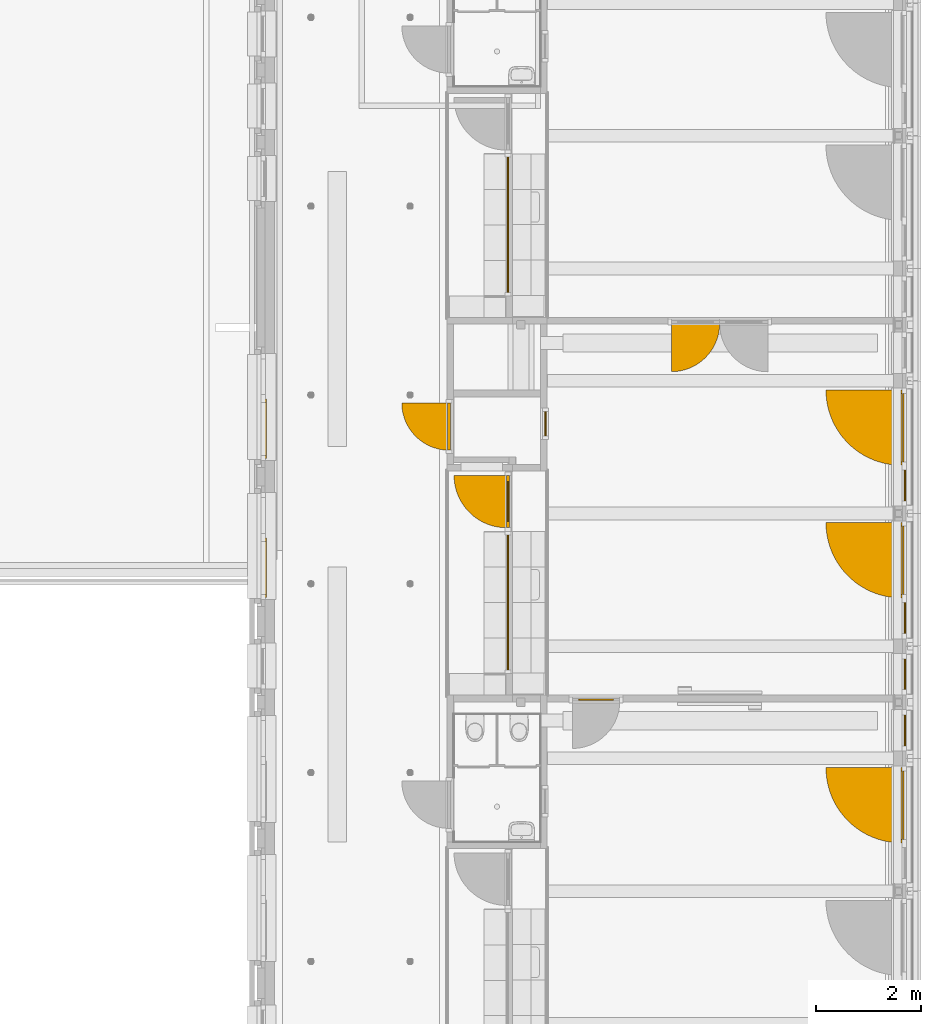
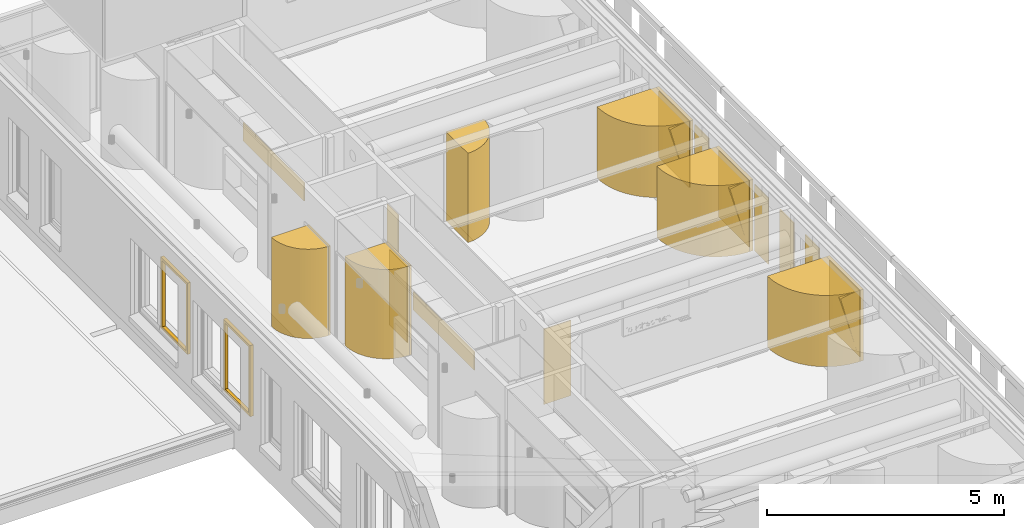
# One storey, part 64 of 128: 23 windows, 2 doors, 7 elements without a shape of their own.
"""IFC2X3 building model written with IfcOpenShell, lengths in millimetres."""

import ifcopenshell
import ifcopenshell.guid

model = None  # the IFC model being written
_history = None  # IfcOwnerHistory: only IFC2X3 demands one
_inside = {}  # id of a spatial element -> (the spatial element, [elements in it])
_under = {}  # id of a project, library or spatial element -> (it, [spatial elements below it])
_declared = {}  # id of a project -> (the project, [libraries it declares])
_typed = {}  # id of a type object -> (the type object, [elements of that type])
_made_of = {}  # id of a material, layer set ... -> (it, [elements and type objects made of it])


def new_model(schema):
    """Start an empty IFC model of exactly this schema.

    Asked for "IFC4X3", IfcOpenShell would pick the latest addendum, in which some entities
    have other attributes; the version numbers below select the first issue.
    IFC2X3 requires an IfcOwnerHistory on every rooted entity: one is made here for all.
    """
    global model, _history
    if schema == "IFC4X3":
        model = ifcopenshell.file(schema_version=(4, 3, 0, 0))
    else:
        model = ifcopenshell.file(schema=schema)
    _inside.clear()
    _under.clear()
    _declared.clear()
    _typed.clear()
    _made_of.clear()
    _history = None
    if model.schema == "IFC2X3":
        org = make("IfcOrganization", Name="unknown")
        user = make(
            "IfcPersonAndOrganization",
            ThePerson=make("IfcPerson", FamilyName="unknown"),
            TheOrganization=org,
        )
        app = make(
            "IfcApplication",
            ApplicationDeveloper=org,
            Version="unknown",
            ApplicationFullName="unknown",
            ApplicationIdentifier="unknown",
        )
        _history = make(
            "IfcOwnerHistory",
            OwningUser=user,
            OwningApplication=app,
            ChangeAction="ADDED",
            CreationDate=0,
        )
    return model


def make(cls, **values):
    """One entity of the class cls with the attributes given. An attribute that is None is left unset."""
    return model.create_entity(
        cls, **{name: value for name, value in values.items() if value is not None}
    )


def entity(cls, *values):
    """Any entity or typed value of the class cls, its attributes in the order of the schema. None: left unset."""
    e = model.create_entity(cls)
    for i, value in enumerate(values):
        if value is not None:
            e[i] = value
    return e


def rooted(cls, **values):
    """An entity with a GlobalId (a new one), such as an element, a storey or a relation."""
    return make(cls, GlobalId=ifcopenshell.guid.new(), OwnerHistory=_history, **values)


def si_unit(unit_type, name, prefix=None):
    """IfcSIUnit, for example si_unit("LENGTHUNIT", "METRE", prefix="MILLI")."""
    return make("IfcSIUnit", UnitType=unit_type, Prefix=prefix, Name=name)


def converted_unit(unit_type, name, factor, base, dimensions=None, offset=None):
    """IfcConversionBasedUnit, such as the inch: factor (a typed value) times the base unit."""
    return make(
        "IfcConversionBasedUnit"
        if offset is None
        else "IfcConversionBasedUnitWithOffset",
        ConversionOffset=offset,
        Dimensions=None
        if dimensions is None
        else entity("IfcDimensionalExponents", *dimensions),
        UnitType=unit_type,
        Name=name,
        ConversionFactor=make(
            "IfcMeasureWithUnit", ValueComponent=factor, UnitComponent=base
        ),
    )


def derived_unit(unit_type, elements):
    """IfcDerivedUnit: a product of units, each with its exponent."""
    return make(
        "IfcDerivedUnit",
        Elements=[
            make("IfcDerivedUnitElement", Unit=unit, Exponent=power)
            for unit, power in elements
        ],
        UnitType=unit_type,
    )


def assignment(units):
    """IfcUnitAssignment: the units of a project."""
    return None if units is None else make("IfcUnitAssignment", Units=units)


def point(xyz):
    """IfcCartesianPoint."""
    return None if xyz is None else make("IfcCartesianPoint", Coordinates=xyz)


def direction(xyz):
    """IfcDirection."""
    return None if xyz is None else make("IfcDirection", DirectionRatios=xyz)


def frame(location, z_axis=None, x_axis=None):
    """IfcAxis2Placement3D, a coordinate frame: its origin and axes. An axis left out is left unset."""
    return make(
        "IfcAxis2Placement3D",
        Location=point(location),
        Axis=direction(z_axis),
        RefDirection=direction(x_axis),
    )


def frame_2d(location, x_axis=None):
    """IfcAxis2Placement2D, a coordinate frame in the plane: its origin and x axis."""
    return make(
        "IfcAxis2Placement2D", Location=point(location), RefDirection=direction(x_axis)
    )


def origin():
    """The frame at (0, 0, 0) with its axes left unset."""
    return frame((0.0, 0.0, 0.0))


def origin_2d_with_axis():
    """The frame at (0, 0) in the plane with the x axis (1, 0) written out."""
    return frame_2d((0.0, 0.0), x_axis=(1.0, 0.0))


def place(relative_to, where):
    """IfcLocalPlacement: puts the frame where relative to a parent placement (None: the world)."""
    return make(
        "IfcLocalPlacement", PlacementRelTo=relative_to, RelativePlacement=where
    )


def context(
    kind, dimensions, precision=None, world=None, true_north=None, identifier=None
):
    """IfcGeometricRepresentationContext, for example the 3D "Model" context."""
    return make(
        "IfcGeometricRepresentationContext",
        ContextIdentifier=identifier,
        ContextType=kind,
        CoordinateSpaceDimension=dimensions,
        Precision=precision,
        WorldCoordinateSystem=world,
        TrueNorth=true_north,
    )


def subcontext(parent, identifier, kind, view, scale=None):
    """IfcGeometricRepresentationSubContext, for example "Body" below "Model"."""
    return make(
        "IfcGeometricRepresentationSubContext",
        ContextIdentifier=identifier,
        ContextType=kind,
        ParentContext=parent,
        TargetScale=scale,
        TargetView=view,
    )


def project(units=None, contexts=None):
    """IfcProject with its units and contexts."""
    return rooted(
        "IfcProject",
        Name="project",
        RepresentationContexts=contexts,
        UnitsInContext=assignment(units),
    )


def spatial(cls, under=None, at=None, **own):
    """A site, building, storey or space (cls), placed at a placement, below another one or the project."""
    s = rooted(cls, ObjectPlacement=at, **own)
    if under is not None:
        _under.setdefault(under.id(), (under, []))[1].append(s)
    return s


def polyline(points):
    """IfcPolyline through the points."""
    return make("IfcPolyline", Points=[point(p) for p in points])


def circle_curve(where, radius):
    """IfcCircle in the frame where."""
    return make("IfcCircle", Position=where, Radius=radius)


def parameter(value):
    """IfcParameterValue: where a trimmed curve begins or ends, as a parameter of its basis curve."""
    return model.create_entity("IfcParameterValue", value)


def trimmed(basis, trim1, trim2, sense, master):
    """IfcTrimmedCurve: the piece of a basis curve between two trims."""
    return make(
        "IfcTrimmedCurve",
        BasisCurve=basis,
        Trim1=trim1,
        Trim2=trim2,
        SenseAgreement=sense,
        MasterRepresentation=master,
    )


def segment(curve, same_sense, transition):
    """IfcCompositeCurveSegment."""
    return make(
        "IfcCompositeCurveSegment",
        Transition=transition,
        SameSense=same_sense,
        ParentCurve=curve,
    )


def composite_curve(segments, self_intersect=None):
    """IfcCompositeCurve: segments joined end to end."""
    return make("IfcCompositeCurve", Segments=segments, SelfIntersect=self_intersect)


def profile(cls, at=None, kind="AREA", **sizes):
    """A parametric profile (cls). Its sizes go by their IFC names, for example OverallWidth=200.0."""
    return make(cls, ProfileType=kind, Position=at, **sizes)


def rectangle(**sizes):
    """IfcRectangleProfileDef."""
    return profile("IfcRectangleProfileDef", **sizes)


def circle(**sizes):
    """IfcCircleProfileDef."""
    return profile("IfcCircleProfileDef", **sizes)


def outline(outer, holes=None, kind="AREA"):
    """IfcArbitraryClosedProfileDef: a profile drawn as a closed curve; with holes, ...WithVoids."""
    if holes is None:
        return make("IfcArbitraryClosedProfileDef", ProfileType=kind, OuterCurve=outer)
    return make(
        "IfcArbitraryProfileDefWithVoids",
        ProfileType=kind,
        OuterCurve=outer,
        InnerCurves=holes,
    )


def extrude(swept, where, along, depth):
    """IfcExtrudedAreaSolid: the profile swept, set in the frame where, extruded along a direction by depth."""
    return make(
        "IfcExtrudedAreaSolid",
        SweptArea=swept,
        Position=where,
        ExtrudedDirection=direction(along),
        Depth=depth,
    )


def shape(context_of_items, identifier, shape_type, items):
    """IfcShapeRepresentation: the items that make up one representation, for example the "Body"."""
    return make(
        "IfcShapeRepresentation",
        ContextOfItems=context_of_items,
        RepresentationIdentifier=identifier,
        RepresentationType=shape_type,
        Items=items,
    )


def source(mapping_origin, context_of_items, identifier, shape_type, items):
    """IfcRepresentationMap: a shape defined once, which mapped items show again and again."""
    return make(
        "IfcRepresentationMap",
        MappingOrigin=mapping_origin,
        MappedRepresentation=shape(context_of_items, identifier, shape_type, items),
    )


def transform(
    local_origin,
    x_axis=None,
    y_axis=None,
    z_axis=None,
    scale=None,
    scale2=None,
    scale3=None,
    uniform=True,
):
    """IfcCartesianTransformationOperator3D, or its non-uniform kind. x_axis, y_axis, z_axis: its Axis1, 2, 3."""
    if uniform:
        return make(
            "IfcCartesianTransformationOperator3D",
            Axis1=direction(x_axis),
            Axis2=direction(y_axis),
            LocalOrigin=point(local_origin),
            Scale=scale,
            Axis3=direction(z_axis),
        )
    return make(
        "IfcCartesianTransformationOperator3DnonUniform",
        Axis1=direction(x_axis),
        Axis2=direction(y_axis),
        LocalOrigin=point(local_origin),
        Scale=scale,
        Axis3=direction(z_axis),
        Scale2=scale2,
        Scale3=scale3,
    )


def mapped(mapping_source, mapping_target):
    """IfcMappedItem: shows the shape of a source again, moved by a transform."""
    return make(
        "IfcMappedItem", MappingSource=mapping_source, MappingTarget=mapping_target
    )


def material(Name=None, Category=None):
    """IfcMaterial."""
    return make("IfcMaterial", Name=Name, Category=Category)


def material_list(materials):
    """IfcMaterialList."""
    return make("IfcMaterialList", Materials=materials)


def made_of(thing, what):
    """Note that an element or type object is made of a material, layer set ...; save() writes the relation."""
    if what is not None:
        _made_of.setdefault(what.id(), (what, []))[1].append(thing)
    return thing


def type_object(cls, material=None, **own):
    """A type object (cls), such as IfcWallType, which elements share."""
    return made_of(rooted(cls, **own), material)


def type_shapes(of_type, sources):
    """Give a type object the sources (RepresentationMaps) that its elements show as mapped items."""
    of_type.RepresentationMaps = sources


def element(
    cls,
    number,
    at=None,
    inside=None,
    cuts=None,
    type_object=None,
    material=None,
    context=None,
    identifier="Body",
    shape_type=None,
    held_by="IfcProductDefinitionShape",
    body=None,
    shapes=None,
    **own,
):
    """One element of the class cls, such as IfcWall. Its Tag is "e" and its number.

    at: its placement. inside: the storey or other place that contains it. cuts: it is an
    opening in that element (IfcRelVoidsElement). A single representation is given by context,
    identifier, shape_type and body (its items); several are given by shapes. held_by: the class
    of the entity that holds the representations. save() writes the other relations.
    """
    e = rooted(cls, Tag="e%d" % number, ObjectPlacement=at, **own)
    if body is not None:
        shapes = [shape(context, identifier, shape_type, body)]
    if shapes is not None:
        e.Representation = make(held_by, Representations=shapes)
    if inside is not None:
        _inside.setdefault(inside.id(), (inside, []))[1].append(e)
    if cuts is not None:
        rooted(
            "IfcRelVoidsElement", RelatingBuildingElement=cuts, RelatedOpeningElement=e
        )
    if type_object is not None:
        _typed.setdefault(type_object.id(), (type_object, []))[1].append(e)
    return made_of(e, material)


def aggregate(whole, parts):
    """IfcRelAggregates: a whole, such as a stair, and the parts it consists of."""
    return rooted("IfcRelAggregates", RelatingObject=whole, RelatedObjects=parts)


def save(model, path):
    """Write the relations noted so far, then the file.

    IfcRelAggregates (storeys below a building ...), IfcRelContainedInSpatialStructure (elements
    in a storey), IfcRelDefinesByType, IfcRelAssociatesMaterial and IfcRelDeclares: one each for
    every whole, place, type object, material and project.
    """
    for whole, parts in _under.values():
        aggregate(whole, parts)
    for where, things in _inside.values():
        rooted(
            "IfcRelContainedInSpatialStructure",
            RelatedElements=things,
            RelatingStructure=where,
        )
    for kind, things in _typed.values():
        rooted("IfcRelDefinesByType", RelatedObjects=things, RelatingType=kind)
    for what, things in _made_of.values():
        rooted("IfcRelAssociatesMaterial", RelatedObjects=things, RelatingMaterial=what)
    for by, libraries in _declared.values():
        rooted("IfcRelDeclares", RelatingContext=by, RelatedDefinitions=libraries)
    model.write(path)


model = new_model("IFC2X3")

# Units and contexts
model_context = context("Model", 3, precision=0.01, world=origin(), true_north=direction((6.123031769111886e-17, 1.0)))
body_context = subcontext(model_context, "Body", "Model", "MODEL_VIEW")
ifc_project = project(units=[si_unit("LENGTHUNIT", "METRE", prefix="MILLI"), si_unit("AREAUNIT", "SQUARE_METRE"), si_unit("VOLUMEUNIT", "CUBIC_METRE"), converted_unit("PLANEANGLEUNIT", "DEGREE", entity("IfcRatioMeasure", 0.017453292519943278), si_unit("PLANEANGLEUNIT", "RADIAN"), dimensions=[0, 0, 0, 0, 0, 0, 0]), si_unit("MASSUNIT", "GRAM", prefix="KILO"), derived_unit("MASSDENSITYUNIT", [(si_unit("MASSUNIT", "GRAM", prefix="KILO"), 1), (si_unit("LENGTHUNIT", "METRE"), -3)]), derived_unit("IONCONCENTRATIONUNIT", [(si_unit("MASSUNIT", "GRAM", prefix="KILO"), 1), (si_unit("LENGTHUNIT", "METRE"), -3)]), derived_unit("MOMENTOFINERTIAUNIT", [(si_unit("LENGTHUNIT", "METRE"), 4)]), si_unit("TIMEUNIT", "SECOND"), si_unit("FREQUENCYUNIT", "HERTZ"), si_unit("THERMODYNAMICTEMPERATUREUNIT", "DEGREE_CELSIUS"), derived_unit("THERMALTRANSMITTANCEUNIT", [(si_unit("MASSUNIT", "GRAM", prefix="KILO"), 1), (si_unit("THERMODYNAMICTEMPERATUREUNIT", "KELVIN"), -1), (si_unit("TIMEUNIT", "SECOND"), -3)]), derived_unit("THERMALCONDUCTANCEUNIT", [(si_unit("MASSUNIT", "GRAM", prefix="KILO"), 1), (si_unit("THERMODYNAMICTEMPERATUREUNIT", "KELVIN"), -1), (si_unit("TIMEUNIT", "SECOND"), -3), (si_unit("LENGTHUNIT", "METRE"), 1)]), derived_unit("VOLUMETRICFLOWRATEUNIT", [(si_unit("LENGTHUNIT", "METRE"), 3), (si_unit("TIMEUNIT", "SECOND"), -1)]), derived_unit("MASSFLOWRATEUNIT", [(si_unit("MASSUNIT", "GRAM", prefix="KILO"), 1), (si_unit("TIMEUNIT", "SECOND"), -1)]), derived_unit("ROTATIONALFREQUENCYUNIT", [(si_unit("TIMEUNIT", "SECOND"), -1)]), si_unit("ELECTRICCURRENTUNIT", "AMPERE"), si_unit("ELECTRICVOLTAGEUNIT", "VOLT"), si_unit("POWERUNIT", "WATT"), si_unit("FORCEUNIT", "NEWTON", prefix="KILO"), si_unit("ILLUMINANCEUNIT", "LUX"), si_unit("LUMINOUSFLUXUNIT", "LUMEN"), si_unit("LUMINOUSINTENSITYUNIT", "CANDELA"), derived_unit("USERDEFINED", [(si_unit("MASSUNIT", "GRAM", prefix="KILO"), -1), (si_unit("LENGTHUNIT", "METRE"), -2), (si_unit("TIMEUNIT", "SECOND"), 3), (si_unit("LUMINOUSFLUXUNIT", "LUMEN"), 1)]), derived_unit("USERDEFINED", [(si_unit("MASSUNIT", "GRAM", prefix="KILO"), 1), (si_unit("TIMEUNIT", "SECOND"), -3), (si_unit("LENGTHUNIT", "METRE"), 3), (si_unit("ELECTRICCURRENTUNIT", "AMPERE"), -2)]), derived_unit("SOUNDPOWERUNIT", [(si_unit("MASSUNIT", "GRAM", prefix="KILO"), 1), (si_unit("TIMEUNIT", "SECOND"), -3), (si_unit("LENGTHUNIT", "METRE"), 2)]), derived_unit("SOUNDPRESSUREUNIT", [(si_unit("MASSUNIT", "GRAM", prefix="KILO"), 1), (si_unit("LENGTHUNIT", "METRE"), -1), (si_unit("TIMEUNIT", "SECOND"), -2)]), derived_unit("LINEARVELOCITYUNIT", [(si_unit("LENGTHUNIT", "METRE"), 1), (si_unit("TIMEUNIT", "SECOND"), -1)]), si_unit("PRESSUREUNIT", "PASCAL"), derived_unit("USERDEFINED", [(si_unit("MASSUNIT", "GRAM", prefix="KILO"), 1), (si_unit("LENGTHUNIT", "METRE"), -2), (si_unit("TIMEUNIT", "SECOND"), -2)]), derived_unit("LINEARFORCEUNIT", [(si_unit("MASSUNIT", "GRAM", prefix="KILO"), 1), (si_unit("TIMEUNIT", "SECOND"), -2)]), derived_unit("PLANARFORCEUNIT", [(si_unit("MASSUNIT", "GRAM", prefix="KILO"), 1), (si_unit("LENGTHUNIT", "METRE"), -1), (si_unit("TIMEUNIT", "SECOND"), -2)]), derived_unit("SPECIFICHEATCAPACITYUNIT", [(si_unit("THERMODYNAMICTEMPERATUREUNIT", "KELVIN"), -1), (si_unit("LENGTHUNIT", "METRE"), 2), (si_unit("TIMEUNIT", "SECOND"), -2)]), derived_unit("HEATINGVALUEUNIT", [(si_unit("LENGTHUNIT", "METRE"), 2), (si_unit("TIMEUNIT", "SECOND"), -2)]), derived_unit("VAPORPERMEABILITYUNIT", [(si_unit("LENGTHUNIT", "METRE"), -1), (si_unit("TIMEUNIT", "SECOND"), 1)]), derived_unit("DYNAMICVISCOSITYUNIT", [(si_unit("MASSUNIT", "GRAM", prefix="KILO"), 1), (si_unit("TIMEUNIT", "SECOND"), -1), (si_unit("LENGTHUNIT", "METRE"), -1)]), derived_unit("THERMALEXPANSIONCOEFFICIENTUNIT", [(si_unit("THERMODYNAMICTEMPERATUREUNIT", "KELVIN"), -1)]), derived_unit("MODULUSOFELASTICITYUNIT", [(si_unit("MASSUNIT", "GRAM", prefix="KILO"), 1), (si_unit("LENGTHUNIT", "METRE"), -1), (si_unit("TIMEUNIT", "SECOND"), -2)]), derived_unit("ISOTHERMALMOISTURECAPACITYUNIT", [(si_unit("LENGTHUNIT", "METRE"), 3), (si_unit("MASSUNIT", "GRAM", prefix="KILO"), -1)]), derived_unit("MOISTUREDIFFUSIVITYUNIT", [(si_unit("TIMEUNIT", "SECOND"), -1), (si_unit("LENGTHUNIT", "METRE"), 2)])], contexts=[model_context])

# Site, building, storey
site_placement = place(None, frame((0.0, 300.0, 0.0)))
site = spatial("IfcSite", under=ifc_project, at=site_placement, Name="<Kadastrale nummers>", CompositionType="ELEMENT")
building_placement = place(site_placement, origin())
building = spatial("IfcBuilding", under=site, at=building_placement, CompositionType="ELEMENT")
storey_placement = place(building_placement, frame((0.0, 0.0, 3560.0000331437)))
storey = spatial("IfcBuildingStorey", under=building, at=storey_placement, Name="01 eerste verdieping", CompositionType="ELEMENT", Elevation=3560.0000331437)

# Curtain wall, door
curtain_wall_type_1 = type_object("IfcCurtainWallType", Name="Curtain Wall:Merk H01", PredefinedType="NOTDEFINED")
curtain_wall_1_placement = place(storey_placement, frame((0.0, 0.0, -3560.0000331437)))
curtain_wall_1 = element("IfcCurtainWall", 1, at=curtain_wall_1_placement, inside=storey, type_object=curtain_wall_type_1, Name="Curtain Wall:Merk H01", ObjectType="Curtain Wall:Merk H01")
ifc_material_1 = material(Name="ISR_Kunststof_wit")
ifc_material_2 = material(Name="ISR_Mass_Glazing")
ifc_material_list = material_list([ifc_material_1, ifc_material_2])
door_style_1 = type_object("IfcDoorStyle", Name="31_DO_Rondgat_deur:dichte_deur", ConstructionType="NOTDEFINED", OperationType="NOTDEFINED", ParameterTakesPrecedence=False, Sizeable=False, material=ifc_material_list)
shared_shape_1 = source(origin(), body_context, "Body", "SweptSolid", [
    extrude(outline(polyline([(-450.0, -1151.5000000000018), (450.0, -1151.5000000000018), (450.0, 1151.4999999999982), (-450.0, 1151.5000000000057), (-450.0, -1151.5000000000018)]), holes=[composite_curve([segment(trimmed(circle_curve(frame_2d((0.0, -448.5000000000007), x_axis=(1.0, 0.0)), 200.0), [parameter(179.99999999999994)], [parameter(359.9999999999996)], True, "PARAMETER"), False, "CONTINUOUS"), segment(trimmed(circle_curve(frame_2d((0.0, -448.5000000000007), x_axis=(1.0, 0.0)), 200.0), [parameter(4.0711099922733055e-13)], [parameter(179.99999999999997)], True, "PARAMETER"), False, "CONTINUOUS")], self_intersect=False)]), frame((0.0, 30.0, 1151.5000000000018), z_axis=(0.0, 1.0, 0.0), x_axis=(1.0, 0.0, 0.0)), (0.0, 0.0, 1.0), 26.999999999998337),
    extrude(outline(polyline([(-450.0, -1151.500000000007), (450.0, -1151.500000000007), (450.0, 1151.499999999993), (-450.0, 1151.5000000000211), (-450.0, -1151.500000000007)]), holes=[composite_curve([segment(trimmed(circle_curve(frame_2d((0.0, -448.49999999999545), x_axis=(1.0, 0.0)), 200.0), [parameter(179.99999999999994)], [parameter(359.9999999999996)], True, "PARAMETER"), False, "CONTINUOUS"), segment(trimmed(circle_curve(frame_2d((0.0, -448.49999999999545), x_axis=(1.0, 0.0)), 200.0), [parameter(4.0711099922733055e-13)], [parameter(179.99999999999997)], True, "PARAMETER"), False, "CONTINUOUS")], self_intersect=False)]), frame((0.0, 57.0, 1151.500000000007), z_axis=(0.0, 1.0, 0.0), x_axis=(1.0, 0.0, 0.0)), (0.0, 0.0, 1.0), 26.999999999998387),
    extrude(circle(Radius=200.0, at=frame_2d((0.0, -2.707167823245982e-13), x_axis=(1.0, 0.0))), frame((0.0, 41.319307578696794, 1600.0), z_axis=(0.0, 1.0, 0.0), x_axis=(-1.0, 0.0, 0.0)), (0.0, 0.0, 1.0), 25.1297239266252),
])
type_shapes(door_style_1, [shared_shape_1])
door_1_placement = place(curtain_wall_1_placement, frame((40084.0, 21756.997246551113, 3670.00003501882), z_axis=(0.0, 0.0, 1.0), x_axis=(0.0, 1.0, 0.0)))
door_1 = element("IfcDoor", 2, at=door_1_placement, type_object=door_style_1, material=ifc_material_list, Name="31_DO_Rondgat_deur:dichte_deur", ObjectType="31_DO_Rondgat_deur:dichte_deur", OverallHeight=2303.000000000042, OverallWidth=900.0000000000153, context=body_context, shape_type="MappedRepresentation", body=[
    mapped(shared_shape_1, transform((0.0, 0.0, 0.0), scale=1.0)),
])
aggregate(curtain_wall_1, [door_1])

# Windows
ifc_material_3 = material(Name="Clearance Zones")
window_style_1 = type_object("IfcWindowStyle", Name="BU deur links:BU deur links", ConstructionType="NOTDEFINED", OperationType="NOTDEFINED", ParameterTakesPrecedence=False, Sizeable=False, material=ifc_material_3)
shared_shape_2 = source(origin(), body_context, "Body", "SweptSolid", [
    extrude(outline(composite_curve([segment(polyline([(-600.0, -300.0), (300.0, -300.0)]), True, "CONTINUOUS"), segment(polyline([(300.0, -300.0), (300.0, 600.0)]), True, "CONTINUOUS"), segment(trimmed(circle_curve(frame_2d((300.0, -300.0), x_axis=(1.0, 0.0)), 900.0000000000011), [parameter(90.00000000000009)], [parameter(179.99999999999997)], True, "PARAMETER"), True, "CONTINUOUS")], self_intersect=False)), frame((-150.0, -327.0, -20.0), z_axis=(0.0, 0.0, 1.0), x_axis=(-1.0, 0.0, 0.0)), (0.0, 0.0, 1.0), 2303.0000000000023),
])
type_shapes(window_style_1, [shared_shape_2])
window_1_placement = place(storey_placement, frame((40056.750000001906, 21756.99724655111, 130.00000187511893), z_axis=(0.0, 0.0, 1.0), x_axis=(0.0, -1.0, 0.0)))
element("IfcWindow", 3, at=window_1_placement, inside=storey, type_object=window_style_1, material=ifc_material_3, Name="BU deur links:BU deur links", ObjectType="BU deur links:BU deur links", OverallHeight=1183.999999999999, OverallWidth=900.0000000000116, context=body_context, shape_type="MappedRepresentation", body=[
    mapped(shared_shape_2, transform((0.0, 0.0, 0.0), scale=1.0)),
])
ifc_material_4 = material(Name="glas_enscape")
window_style_2 = type_object("IfcWindowStyle", Name="WI_subvak1:glas 4", ConstructionType="NOTDEFINED", OperationType="NOTDEFINED", ParameterTakesPrecedence=False, Sizeable=False, material=ifc_material_4)
shared_shape_3 = source(origin(), body_context, "Body", "SweptSolid", [
    extrude(rectangle(XDim=24.00000000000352, YDim=2576.000000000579, at=origin_2d_with_axis()), frame((0.0, 0.0, 0.0), z_axis=(0.0, 0.0, 1.0), x_axis=(0.0, -1.0, 0.0)), (0.0, 0.0, 1.0), 465.9999999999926),
])
type_shapes(window_style_2, [shared_shape_3])
for number, where, z_axis, x_axis, name in (
    (4, (41152.0, 25605.998623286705, 1357.0), (0.0, 0.0, 1.0), (0.0, 1.0, 0.0), "WI_subvak1:glas 4"),
    (5, (41152.0, 18405.997246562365, 1357.0), (0.0, 0.0, 1.0), (0.0, 1.0, 0.0), "WI_subvak1:glas 4"),
):
    element("IfcWindow", number, at=place(storey_placement, frame(where, z_axis=z_axis, x_axis=x_axis)), inside=storey, type_object=window_style_2, material=ifc_material_4, Name=name, ObjectType="WI_subvak1:glas 4", OverallHeight=609.928649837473, OverallWidth=2576.0000000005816, context=body_context, shape_type="MappedRepresentation", body=[
        mapped(shared_shape_3, transform((0.0, 0.0, 0.0), scale=1.0)),
    ])

# Curtain wall, door
curtain_wall_type_2 = type_object("IfcCurtainWallType", Name="Curtain Wall:Merk H09", PredefinedType="NOTDEFINED")
curtain_wall_2_placement = place(storey_placement, frame((0.0, 0.0, -3560.0000331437)))
curtain_wall_2 = element("IfcCurtainWall", 6, at=curtain_wall_2_placement, inside=storey, type_object=curtain_wall_type_2, Name="Curtain Wall:Merk H09", ObjectType="Curtain Wall:Merk H09")
ifc_material_5 = material(Name="ISR_HPL Kleur hout")
door_style_2 = type_object("IfcDoorStyle", Name="31_DO_deur_met_stapeldorpel:deur_met_stapeldorpel", ConstructionType="NOTDEFINED", OperationType="NOTDEFINED", ParameterTakesPrecedence=False, Sizeable=False, material=ifc_material_5)
shared_shape_4 = source(origin(), body_context, "Body", "SweptSolid", [
    extrude(outline(polyline([(-500.0, -1151.4999999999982), (500.0, -1151.4999999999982), (500.0, 1151.4999999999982), (-500.0, 1151.4999999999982), (-500.0, -1151.4999999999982)]), holes=[polyline([(-380.0, 911.499999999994), (380.0, 911.4999999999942), (380.0, -1031.4999999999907), (-380.0, -1031.499999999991), (-380.0, 911.499999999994)])]), frame((0.0, 57.0, 1151.5000000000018), z_axis=(0.0, 1.0, 0.0), x_axis=(1.0, 0.0, 0.0)), (0.0, 0.0, 1.0), 26.999999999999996),
    extrude(outline(polyline([(-500.0, -1151.4999999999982), (500.0, -1151.4999999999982), (500.0, 1151.4999999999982), (-500.0, 1151.4999999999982), (-500.0, -1151.4999999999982)]), holes=[polyline([(-380.0, 911.4999999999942), (380.0, 911.4999999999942), (380.0, -1031.4999999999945), (-380.0, -1031.4999999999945), (-380.0, 911.4999999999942)])]), frame((0.0, 30.0, 1151.5000000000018), z_axis=(0.0, 1.0, 0.0), x_axis=(1.0, 0.0, 0.0)), (0.0, 0.0, 1.0), 26.99999999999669),
])
type_shapes(door_style_2, [shared_shape_4])
door_2_placement = place(curtain_wall_2_placement, frame((41209.0, 20327.997246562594, 3670.00003501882), z_axis=(0.0, 0.0, 1.0), x_axis=(0.0, 1.0, 0.0)))
door_2 = element("IfcDoor", 7, at=door_2_placement, type_object=door_style_2, material=ifc_material_5, Name="31_DO_deur_met_stapeldorpel:deur_met_stapeldorpel", ObjectType="31_DO_deur_met_stapeldorpel:deur_met_stapeldorpel", OverallHeight=2303.0000000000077, OverallWidth=1000.0000000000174, context=body_context, shape_type="MappedRepresentation", body=[
    mapped(shared_shape_4, transform((0.0, 0.0, 0.0), scale=1.0)),
])
aggregate(curtain_wall_2, [door_2])

# Windows
window_style_3 = type_object("IfcWindowStyle", Name="WI_subvak1:glas 4", ConstructionType="NOTDEFINED", OperationType="NOTDEFINED", ParameterTakesPrecedence=False, Sizeable=False, material=ifc_material_4)
shared_shape_5 = source(origin(), body_context, "Body", "SweptSolid", [
    extrude(rectangle(XDim=466.0000000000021, YDim=24.000000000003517, at=origin_2d_with_axis()), origin(), (0.0, 0.0, 1.0), 1055.9999999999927),
])
type_shapes(window_style_3, [shared_shape_5])
window_2_placement = place(storey_placement, frame((41868.0, 21809.99724655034, 1357.0), z_axis=(0.0, 0.0, 1.0), x_axis=(0.0, 1.0, 0.0)))
element("IfcWindow", 8, at=window_2_placement, inside=storey, type_object=window_style_3, material=ifc_material_4, Name="WI_subvak1:glas 4", ObjectType="WI_subvak1:glas 4", OverallHeight=609.9286498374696, OverallWidth=466.00000000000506, context=body_context, shape_type="MappedRepresentation", body=[
    mapped(shared_shape_5, transform((0.0, 0.0, 0.0), scale=1.0)),
])
window_style_4 = type_object("IfcWindowStyle", Name="WI_subvak1:glas 2", ConstructionType="NOTDEFINED", OperationType="NOTDEFINED", ParameterTakesPrecedence=False, Sizeable=False, material=ifc_material_4)
shared_shape_6 = source(origin(), body_context, "Body", "SweptSolid", [
    extrude(rectangle(XDim=24.000000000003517, YDim=759.9999999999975, at=frame_2d((0.0, -2.842170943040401e-14), x_axis=(1.0, 0.0))), frame((0.0, 0.0, 0.0), z_axis=(0.0, 0.0, 1.0), x_axis=(0.0, -1.0, 0.0)), (0.0, 0.0, 1.0), 1942.999999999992),
])
type_shapes(window_style_4, [shared_shape_6])
window_3_placement = place(storey_placement, frame((41152.0, 20327.997246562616, 350.00000187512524), z_axis=(0.0, 0.0, 1.0), x_axis=(0.0, 1.0, 0.0)))
element("IfcWindow", 9, at=window_3_placement, inside=storey, type_object=window_style_4, material=ifc_material_4, Name="WI_subvak1:glas 2", ObjectType="WI_subvak1:glas 2", OverallHeight=609.9286498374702, OverallWidth=760.0000000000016, context=body_context, shape_type="MappedRepresentation", body=[
    mapped(shared_shape_6, transform((0.0, 0.0, 0.0), scale=1.0)),
])
window_style_5 = type_object("IfcWindowStyle", Name="BU deur links:BU deur links", ConstructionType="NOTDEFINED", OperationType="NOTDEFINED", ParameterTakesPrecedence=False, Sizeable=False, material=ifc_material_3)
shared_shape_7 = source(origin(), body_context, "Body", "SweptSolid", [
    extrude(outline(composite_curve([segment(polyline([(-666.6666666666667, -333.33333333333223), (333.3333333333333, -333.33333333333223)]), True, "CONTINUOUS"), segment(polyline([(333.3333333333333, -333.33333333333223), (333.33333333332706, 666.6666666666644)]), True, "CONTINUOUS"), segment(trimmed(circle_curve(frame_2d((333.3333333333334, -333.33333333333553), x_axis=(1.0, 0.0)), 1000.0000000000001), [parameter(90.00000000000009)], [parameter(179.99999999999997)], True, "PARAMETER"), True, "CONTINUOUS")], self_intersect=False)), frame((-166.66666666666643, -360.3333333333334, -20.0), z_axis=(0.0, 0.0, 1.0), x_axis=(-1.0, 0.0, 0.0)), (0.0, 0.0, 1.0), 2303.0000000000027),
])
type_shapes(window_style_5, [shared_shape_7])
window_4_placement = place(storey_placement, frame((41152.0, 20327.997246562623, 130.00000187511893), z_axis=(0.0, 0.0, 1.0), x_axis=(0.0, -1.0, 0.0)))
element("IfcWindow", 10, at=window_4_placement, inside=storey, type_object=window_style_5, material=ifc_material_3, Name="BU deur links:BU deur links", ObjectType="BU deur links:BU deur links", OverallHeight=1284.0000000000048, OverallWidth=1000.0000000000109, context=body_context, shape_type="MappedRepresentation", body=[
    mapped(shared_shape_7, transform((0.0, 0.0, 0.0), scale=1.0)),
])
window_style_6 = type_object("IfcWindowStyle", Name="BU deur rechts:BU deur rechts", ConstructionType="NOTDEFINED", OperationType="NOTDEFINED", ParameterTakesPrecedence=False, Sizeable=False, material=ifc_material_3)
shared_shape_8 = source(origin(), body_context, "Body", "SweptSolid", [
    extrude(outline(composite_curve([segment(polyline([(-615.3333333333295, -307.66666666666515), (307.66666666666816, -307.6666666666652)]), True, "CONTINUOUS"), segment(polyline([(307.66666666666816, -307.6666666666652), (307.6666666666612, 615.3333333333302)]), True, "CONTINUOUS"), segment(trimmed(circle_curve(frame_2d((307.6666666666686, -307.66666666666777), x_axis=(1.0, 0.0)), 922.9999999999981), [parameter(90.00000000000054)], [parameter(180.0)], True, "PARAMETER"), True, "CONTINUOUS")], self_intersect=False)), frame((153.83333333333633, 334.66666666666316, 0.0)), (0.0, 0.0, 1.0), 2302.999999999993),
])
type_shapes(window_style_6, [shared_shape_8])
window_5_placement = place(storey_placement, frame((44728.499999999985, 23751.998623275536, 110.00000187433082), z_axis=(0.0, 0.0, 1.0), x_axis=(-1.0, 0.0, 0.0)))
element("IfcWindow", 11, at=window_5_placement, inside=storey, type_object=window_style_6, material=ifc_material_3, Name="BU deur rechts:BU deur rechts", ObjectType="BU deur rechts:BU deur rechts", OverallHeight=1207.0000000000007, OverallWidth=923.0000000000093, context=body_context, shape_type="MappedRepresentation", body=[
    mapped(shared_shape_8, transform((0.0, 0.0, 0.0), scale=1.0)),
])
window_style_7 = type_object("IfcWindowStyle", Name="WI_subvak1:glas 2", ConstructionType="NOTDEFINED", OperationType="NOTDEFINED", ParameterTakesPrecedence=False, Sizeable=False, material=ifc_material_4)
shared_shape_9 = source(origin(), body_context, "Body", "SweptSolid", [
    extrude(rectangle(XDim=24.00000000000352, YDim=660.0000000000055, at=frame_2d((0.0, 2.842170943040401e-14), x_axis=(1.0, 0.0))), frame((0.0, 0.0, 0.0), z_axis=(0.0, 0.0, 1.0), x_axis=(0.0, -1.0, 0.0)), (0.0, 0.0, 1.0), 1942.999999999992),
])
type_shapes(window_style_7, [shared_shape_9])
window_6_placement = place(storey_placement, frame((42834.50000000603, 16546.998623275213, 350.0000018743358), z_axis=(0.0, 0.0, 1.0), x_axis=(-1.0, 0.0, 0.0)))
element("IfcWindow", 12, at=window_6_placement, inside=storey, type_object=window_style_7, material=ifc_material_4, Name="WI_subvak1:glas 2", ObjectType="WI_subvak1:glas 2", OverallHeight=609.9286498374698, OverallWidth=660.0000000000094, context=body_context, shape_type="MappedRepresentation", body=[
    mapped(shared_shape_9, transform((0.0, 0.0, 0.0), scale=1.0)),
])

# Curtain wall, window
curtain_wall_type_3 = type_object("IfcCurtainWallType", Name="Curtain Wall:K_22", PredefinedType="NOTDEFINED")
curtain_wall_3_placement = place(storey_placement, frame((0.0, 0.0, -3560.0000331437)))
curtain_wall_3 = element("IfcCurtainWall", 13, at=curtain_wall_3_placement, inside=storey, type_object=curtain_wall_type_3, Name="Curtain Wall:K_22", ObjectType="Curtain Wall:K_22")
ifc_material_6 = material(Name="ISR_Aluminium")
window_style_8 = type_object("IfcWindowStyle", Name="31_WI_raam_1:GEALAN KUBUS RAAM", ConstructionType="NOTDEFINED", OperationType="NOTDEFINED", ParameterTakesPrecedence=False, Sizeable=False, material=ifc_material_6)
shared_shape_10 = source(origin(), body_context, "Body", "SweptSolid", [
    extrude(outline(polyline([(-717.0, -918.9999824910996), (717.0, -918.9999824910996), (717.0, 918.9999824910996), (-717.0, 918.9999824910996), (-717.0, -918.9999824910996)]), holes=[polyline([(-653.0, 854.9999824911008), (653.0, 854.9999824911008), (653.0, -854.9999824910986), (-653.0, -854.9999824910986), (-653.0, 854.9999824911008)])]), frame((0.0, 63.0, 854.9999824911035), z_axis=(0.0, -1.0, 0.0), x_axis=(-1.0, 0.0, 0.0)), (0.0, 0.0, 1.0), 40.50000000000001),
    extrude(outline(polyline([(-717.0, -918.9999824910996), (717.0, -918.9999824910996), (717.0, 918.9999824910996), (-717.0, 918.9999824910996), (-717.0, -918.9999824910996)]), holes=[polyline([(-653.0, 854.9999824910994), (653.0, 854.9999824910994), (653.0, -854.9999824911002), (-653.0, -854.9999824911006), (-653.0, 854.9999824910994)])]), frame((0.0, 22.499999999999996, 854.9999824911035), z_axis=(0.0, -1.0, 0.0), x_axis=(-1.0, 0.0, 0.0)), (0.0, 0.0, 1.0), 40.5),
])
type_shapes(window_style_8, [shared_shape_10])
window_7_placement = place(curtain_wall_3_placement, frame((48668.0, 21737.0, 4580.0000331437), z_axis=(0.0, 0.0, 1.0), x_axis=(0.0, -1.0, 0.0)))
window_7 = element("IfcWindow", 14, at=window_7_placement, type_object=window_style_8, material=ifc_material_6, Name="31_WI_raam_1:GEALAN KUBUS RAAM", ObjectType="31_WI_raam_1:GEALAN KUBUS RAAM", OverallHeight=1853.9999649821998, OverallWidth=1434.0000000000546, context=body_context, shape_type="MappedRepresentation", body=[
    mapped(shared_shape_10, transform((0.0, 0.0, 0.0), scale=1.0)),
])
aggregate(curtain_wall_3, [window_7])

curtain_wall_4_placement = place(storey_placement, frame((0.0, 0.0, -3560.0000331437)))
curtain_wall_4 = element("IfcCurtainWall", 15, at=curtain_wall_4_placement, inside=storey, type_object=curtain_wall_type_3, Name="Curtain Wall:K_22", ObjectType="Curtain Wall:K_22")
window_8_placement = place(curtain_wall_4_placement, frame((48668.0, 19207.0, 4580.0000331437), z_axis=(0.0, 0.0, 1.0), x_axis=(0.0, -1.0, 0.0)))
window_8 = element("IfcWindow", 16, at=window_8_placement, type_object=window_style_8, material=ifc_material_6, Name="31_WI_raam_1:GEALAN KUBUS RAAM", ObjectType="31_WI_raam_1:GEALAN KUBUS RAAM", OverallHeight=1853.9999649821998, OverallWidth=1434.0000000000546, context=body_context, shape_type="MappedRepresentation", body=[
    mapped(shared_shape_10, transform((0.0, 0.0, 0.0), scale=1.0)),
])
aggregate(curtain_wall_4, [window_8])

curtain_wall_5_placement = place(storey_placement, frame((0.0, 0.0, -3560.0000331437)))
curtain_wall_5 = element("IfcCurtainWall", 17, at=curtain_wall_5_placement, inside=storey, type_object=curtain_wall_type_3, Name="Curtain Wall:K_22", ObjectType="Curtain Wall:K_22")
window_9_placement = place(curtain_wall_5_placement, frame((48668.0, 14537.0, 4580.0000331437), z_axis=(0.0, 0.0, 1.0), x_axis=(0.0, -1.0, 0.0)))
window_9 = element("IfcWindow", 18, at=window_9_placement, type_object=window_style_8, material=ifc_material_6, Name="31_WI_raam_1:GEALAN KUBUS RAAM", ObjectType="31_WI_raam_1:GEALAN KUBUS RAAM", OverallHeight=1853.9999649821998, OverallWidth=1434.0000000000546, context=body_context, shape_type="MappedRepresentation", body=[
    mapped(shared_shape_10, transform((0.0, 0.0, 0.0), scale=1.0)),
])
aggregate(curtain_wall_5, [window_9])

curtain_wall_type_4 = type_object("IfcCurtainWallType", Name="Curtain Wall:K_24", PredefinedType="NOTDEFINED")
curtain_wall_6_placement = place(storey_placement, frame((0.0, 0.0, -3560.0000331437)))
curtain_wall_6 = element("IfcCurtainWall", 19, at=curtain_wall_6_placement, inside=storey, type_object=curtain_wall_type_4, Name="Curtain Wall:K_24", ObjectType="Curtain Wall:K_24")
window_style_9 = type_object("IfcWindowStyle", Name="31_WI_raam_1:GEALAN KUBUS RAAM", ConstructionType="NOTDEFINED", OperationType="NOTDEFINED", ParameterTakesPrecedence=False, Sizeable=False, material=ifc_material_6)
shared_shape_11 = source(origin(), body_context, "Body", "SweptSolid", [
    extrude(outline(polyline([(-567.0, -919.0), (567.0, -919.0), (567.0, 919.0), (-567.0, 919.0), (-567.0, -919.0)]), holes=[polyline([(-503.0, 855.0), (503.0, 855.0), (503.0, -855.0), (-503.0, -855.0), (-503.0, 855.0)])]), frame((0.0, 63.0, 855.0), z_axis=(0.0, -1.0, 0.0), x_axis=(-1.0, 0.0, 0.0)), (0.0, 0.0, 1.0), 40.50000000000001),
    extrude(outline(polyline([(-567.0, -919.0), (567.0, -919.0), (567.0, 919.0), (-567.0, 919.0), (-567.0, -919.0)]), holes=[polyline([(-503.0, 855.0), (503.0, 855.0), (503.0, -855.0), (-503.0, -855.0), (-503.0, 855.0)])]), frame((0.0, 22.499999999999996, 855.0), z_axis=(0.0, -1.0, 0.0), x_axis=(-1.0, 0.0, 0.0)), (0.0, 0.0, 1.0), 40.5),
])
type_shapes(window_style_9, [shared_shape_11])
window_10_placement = place(curtain_wall_6_placement, frame((36531.99862327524, 19063.0, 4580.0000331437), z_axis=(0.0, 0.0, 1.0), x_axis=(0.0, 1.0, 0.0)))
window_10 = element("IfcWindow", 20, at=window_10_placement, type_object=window_style_9, material=ifc_material_6, Name="31_WI_raam_1:GEALAN KUBUS RAAM", ObjectType="31_WI_raam_1:GEALAN KUBUS RAAM", OverallHeight=1854.0000000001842, OverallWidth=1134.0000000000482, context=body_context, shape_type="MappedRepresentation", body=[
    mapped(shared_shape_11, transform((0.0, 0.0, 0.0), scale=1.0)),
])
aggregate(curtain_wall_6, [window_10])

curtain_wall_7_placement = place(storey_placement, frame((0.0, 0.0, -3560.0000331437)))
curtain_wall_7 = element("IfcCurtainWall", 21, at=curtain_wall_7_placement, inside=storey, type_object=curtain_wall_type_4, Name="Curtain Wall:K_24", ObjectType="Curtain Wall:K_24")
window_11_placement = place(curtain_wall_7_placement, frame((36531.99862327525, 21713.0, 4580.0000331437), z_axis=(0.0, 0.0, 1.0), x_axis=(0.0, 1.0, 0.0)))
window_11 = element("IfcWindow", 22, at=window_11_placement, type_object=window_style_9, material=ifc_material_6, Name="31_WI_raam_1:GEALAN KUBUS RAAM", ObjectType="31_WI_raam_1:GEALAN KUBUS RAAM", OverallHeight=1854.0000000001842, OverallWidth=1134.0000000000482, context=body_context, shape_type="MappedRepresentation", body=[
    mapped(shared_shape_11, transform((0.0, 0.0, 0.0), scale=1.0)),
])
aggregate(curtain_wall_7, [window_11])

# Windows
window_style_10 = type_object("IfcWindowStyle", Name="WI_subvak1:glas 4", ConstructionType="NOTDEFINED", OperationType="NOTDEFINED", ParameterTakesPrecedence=False, Sizeable=False, material=ifc_material_4)
shared_shape_12 = source(origin(), body_context, "Body", "SweptSolid", [
    extrude(rectangle(XDim=590.000000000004, YDim=24.00000000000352, at=frame_2d((0.0, -1.7763568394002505e-15), x_axis=(1.0, 0.0))), origin(), (0.0, 0.0, 1.0), 1709.9999649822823),
])
type_shapes(window_style_10, [shared_shape_12])
for number, where, z_axis, x_axis, name in (
    (23, (48725.0, 15965.0, 1020.0), (0.0, 0.0, 1.0), (0.0, 1.0, 0.0), "WI_subvak1:glas 4"),
    (24, (48725.0, 17035.0, 1020.0), (0.0, 0.0, 1.0), (0.0, 1.0, 0.0), "WI_subvak1:glas 4"),
    (25, (48725.0, 20635.0, 1020.0), (0.0, 0.0, 1.0), (0.0, 1.0, 0.0), "WI_subvak1:glas 4"),
    (26, (48725.0, 18105.0, 1020.0), (0.0, 0.0, 1.0), (0.0, 1.0, 0.0), "WI_subvak1:glas 4"),
):
    element("IfcWindow", number, at=place(storey_placement, frame(where, z_axis=z_axis, x_axis=x_axis)), inside=storey, type_object=window_style_10, material=ifc_material_4, Name=name, ObjectType="WI_subvak1:glas 4", OverallHeight=609.9286498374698, OverallWidth=590.0000000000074, context=body_context, shape_type="MappedRepresentation", body=[
        mapped(shared_shape_12, transform((0.0, 0.0, 0.0), scale=1.0)),
    ])
window_style_11 = type_object("IfcWindowStyle", Name="BI draai-val rechts:BI draai-val rechts", ConstructionType="NOTDEFINED", OperationType="NOTDEFINED", ParameterTakesPrecedence=False, Sizeable=False, material=ifc_material_3)
shared_shape_13 = source(origin(), body_context, "Body", "SweptSolid", [
    extrude(outline(composite_curve([segment(trimmed(circle_curve(frame_2d((1204.4571999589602, 158.5697986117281), x_axis=(1.0, 0.0)), 1837.999964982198), [parameter(180.00000000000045)], [parameter(195.00000000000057)], True, "PARAMETER"), True, "CONTINUOUS"), segment(polyline([(-570.914434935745, -317.1395972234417), (1204.4571999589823, 158.56979861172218)]), True, "CONTINUOUS"), segment(polyline([(1204.4571999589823, 158.56979861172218), (-633.5427650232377, 158.56979861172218)]), True, "CONTINUOUS")], self_intersect=False)), frame((-717.0, -199.06979861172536, 1184.4571999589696), z_axis=(1.0, 0.0, 0.0), x_axis=(0.0, 0.0, -1.0)), (0.0, 0.0, 1.0), 1434.0000000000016),
    extrude(outline(composite_curve([segment(polyline([(-956.0, -478.0), (478.0, -478.0)]), True, "CONTINUOUS"), segment(polyline([(478.0, -478.0), (478.0, 956.0)]), True, "CONTINUOUS"), segment(trimmed(circle_curve(frame_2d((478.0, -478.0), x_axis=(-1.0, 0.0)), 1434.000000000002), [parameter(270.0000000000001)], [parameter(0.0)], True, "PARAMETER"), True, "CONTINUOUS")], self_intersect=False)), frame((-239.0, -518.5000000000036, -20.0), z_axis=(0.0, 0.0, 1.0), x_axis=(-1.0, 0.0, 0.0)), (0.0, 0.0, 1.0), 1837.999964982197),
])
type_shapes(window_style_11, [shared_shape_13])
for number, where, z_axis, x_axis, name in (
    (27, (48690.49999999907, 14537.0, 976.0), (0.0, 0.0, 1.0), (0.0, -1.0, 0.0), "BI draai-val rechts:BI draai-val rechts"),
    (28, (48690.49999999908, 21737.0, 976.0), (0.0, 0.0, 1.0), (0.0, -1.0, 0.0), "BI draai-val rechts:BI draai-val rechts"),
    (29, (48690.49999999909, 19207.0, 976.0), (0.0, 0.0, 1.0), (0.0, -1.0, 0.0), "BI draai-val rechts:BI draai-val rechts"),
):
    element("IfcWindow", number, at=place(storey_placement, frame(where, z_axis=z_axis, x_axis=x_axis)), inside=storey, type_object=window_style_11, material=ifc_material_3, Name=name, ObjectType="BI draai-val rechts:BI draai-val rechts", OverallHeight=1515.0000000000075, OverallWidth=1434.0000000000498, context=body_context, shape_type="MappedRepresentation", body=[
        mapped(shared_shape_13, transform((0.0, 0.0, 0.0), scale=1.0)),
    ])
window_style_12 = type_object("IfcWindowStyle", Name="WI_subvak:glas 2", ConstructionType="NOTDEFINED", OperationType="NOTDEFINED", ParameterTakesPrecedence=False, Sizeable=False, material=ifc_material_4)
shared_shape_14 = source(origin(), body_context, "Body", "SweptSolid", [
    extrude(rectangle(XDim=1306.000000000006, YDim=24.00000000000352, at=frame_2d((0.0, -1.7763568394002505e-15), x_axis=(1.0, 0.0))), origin(), (0.0, 0.0, 1.0), 1709.9999649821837),
])
type_shapes(window_style_12, [shared_shape_14])
for number, where, z_axis, x_axis, name in (
    (30, (48690.49999999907, 14537.0, 1020.0), (0.0, 0.0, 1.0), (0.0, 1.0, 0.0), "WI_subvak:glas 2"),
    (31, (48690.49999999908, 21737.0, 1020.0), (0.0, 0.0, 1.0), (0.0, 1.0, 0.0), "WI_subvak:glas 2"),
    (32, (48690.49999999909, 19207.0, 1020.0), (0.0, 0.0, 1.0), (0.0, 1.0, 0.0), "WI_subvak:glas 2"),
):
    element("IfcWindow", number, at=place(storey_placement, frame(where, z_axis=z_axis, x_axis=x_axis)), inside=storey, type_object=window_style_12, material=ifc_material_4, Name=name, ObjectType="WI_subvak:glas 2", OverallHeight=609.928649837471, OverallWidth=1306.0000000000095, context=body_context, shape_type="MappedRepresentation", body=[
        mapped(shared_shape_14, transform((0.0, 0.0, 0.0), scale=1.0)),
    ])

save(model, "model.ifc")
